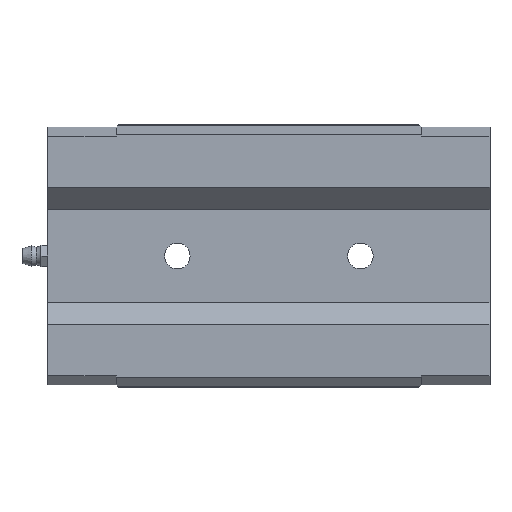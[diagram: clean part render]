
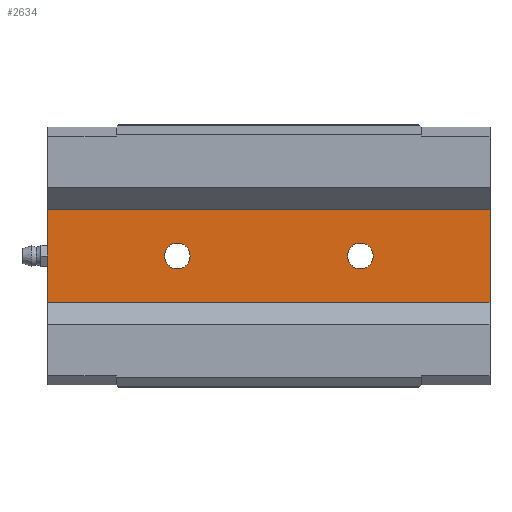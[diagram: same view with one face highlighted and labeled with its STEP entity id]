
A CAD part, front view. The second image highlights one B-rep face of the part: STEP entity #2634.
In plain terms, the highlighted planar face has unit normal (0, -1, 0).
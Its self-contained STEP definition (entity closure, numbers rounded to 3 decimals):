
#187=CIRCLE('',#2885,4.188);
#188=CIRCLE('',#2886,4.188);
#737=ORIENTED_EDGE('',*,*,#1208,.F.);
#738=ORIENTED_EDGE('',*,*,#1209,.F.);
#739=ORIENTED_EDGE('',*,*,#1034,.F.);
#740=ORIENTED_EDGE('',*,*,#1207,.F.);
#741=ORIENTED_EDGE('',*,*,#977,.T.);
#742=ORIENTED_EDGE('',*,*,#1210,.T.);
#977=EDGE_CURVE('',#1329,#1328,#1575,.T.);
#1034=EDGE_CURVE('',#1382,#1383,#1611,.T.);
#1207=EDGE_CURVE('',#1329,#1382,#1757,.T.);
#1208=EDGE_CURVE('',#1477,#1477,#187,.T.);
#1209=EDGE_CURVE('',#1478,#1478,#188,.T.);
#1210=EDGE_CURVE('',#1328,#1383,#1758,.T.);
#1328=VERTEX_POINT('',#3867);
#1329=VERTEX_POINT('',#3869);
#1382=VERTEX_POINT('',#3979);
#1383=VERTEX_POINT('',#3981);
#1477=VERTEX_POINT('',#4330);
#1478=VERTEX_POINT('',#4332);
#1575=LINE('',#3868,#1793);
#1611=LINE('',#3980,#1829);
#1757=LINE('',#4327,#1975);
#1758=LINE('',#4333,#1976);
#1793=VECTOR('',#3072,1000.);
#1829=VECTOR('',#3152,1000.);
#1975=VECTOR('',#3512,1000.);
#1976=VECTOR('',#3519,1000.);
#2089=EDGE_LOOP('',(#737));
#2090=EDGE_LOOP('',(#738));
#2091=EDGE_LOOP('',(#739,#740,#741,#742));
#2321=FACE_BOUND('',#2089,.T.);
#2322=FACE_BOUND('',#2090,.T.);
#2323=FACE_BOUND('',#2091,.T.);
#2521=PLANE('',#2884);
#2634=ADVANCED_FACE('',(#2321,#2322,#2323),#2521,.T.);
#2884=AXIS2_PLACEMENT_3D('',#4328,#3513,#3514);
#2885=AXIS2_PLACEMENT_3D('',#4329,#3515,#3516);
#2886=AXIS2_PLACEMENT_3D('',#4331,#3517,#3518);
#3072=DIRECTION('',(0.,0.,1.));
#3152=DIRECTION('',(0.,0.,1.));
#3512=DIRECTION('',(-1.,0.,0.));
#3513=DIRECTION('',(0.,-1.,0.));
#3514=DIRECTION('',(0.,0.,-1.));
#3515=DIRECTION('',(0.,-1.,0.));
#3516=DIRECTION('',(0.,0.,-1.));
#3517=DIRECTION('',(0.,-1.,0.));
#3518=DIRECTION('',(0.,0.,-1.));
#3519=DIRECTION('',(-1.,0.,0.));
#3867=CARTESIAN_POINT('',(72.5,29.6,21.47));
#3868=CARTESIAN_POINT('',(72.5,29.6,-21.47));
#3869=CARTESIAN_POINT('',(72.5,29.6,-21.47));
#3979=CARTESIAN_POINT('',(-72.5,29.6,-21.47));
#3980=CARTESIAN_POINT('',(-72.5,29.6,-21.47));
#3981=CARTESIAN_POINT('',(-72.5,29.6,21.47));
#4327=CARTESIAN_POINT('',(72.5,29.6,-21.47));
#4328=CARTESIAN_POINT('',(72.5,29.6,-21.47));
#4329=CARTESIAN_POINT('',(-30.,29.6,0.));
#4330=CARTESIAN_POINT('',(-30.,29.6,-4.188));
#4331=CARTESIAN_POINT('',(30.,29.6,0.));
#4332=CARTESIAN_POINT('',(30.,29.6,-4.188));
#4333=CARTESIAN_POINT('',(72.5,29.6,21.47));
